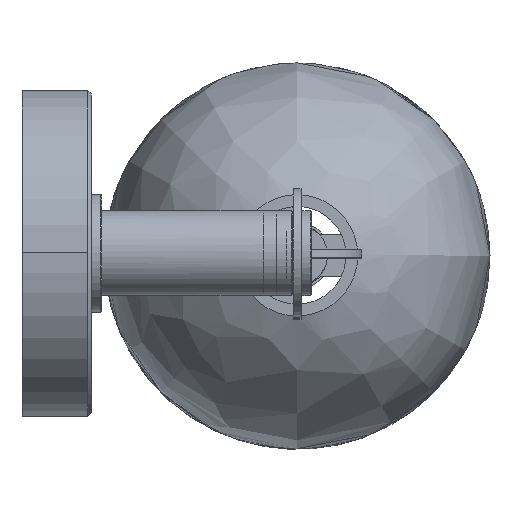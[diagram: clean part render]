
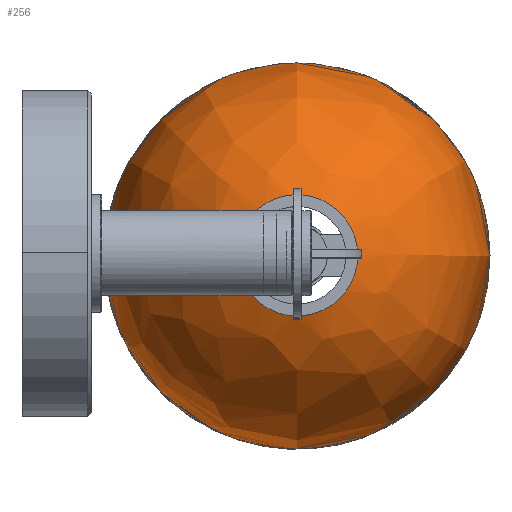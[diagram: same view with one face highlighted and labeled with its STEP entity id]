
A CAD part, top view. The second image highlights one B-rep face of the part: STEP entity #256.
In plain terms, the highlighted free-form (B-spline) face has degree [2, 2] with [9, 5] control points.
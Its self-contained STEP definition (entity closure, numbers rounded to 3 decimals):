
#256=ADVANCED_FACE('',(#629),#5614,.T.);
#629=FACE_OUTER_BOUND('',#1020,.T.);
#1020=EDGE_LOOP('',(#1980,#1981,#1982,#1983));
#1980=ORIENTED_EDGE('',*,*,#3401,.T.);
#1981=ORIENTED_EDGE('',*,*,#3396,.F.);
#1982=ORIENTED_EDGE('',*,*,#3401,.F.);
#1983=ORIENTED_EDGE('',*,*,#3400,.F.);
#3396=EDGE_CURVE('',#5061,#5061,#4353,.T.);
#3400=EDGE_CURVE('',#5064,#5064,#4357,.T.);
#3401=EDGE_CURVE('',#5064,#5061,#4358,.T.);
#4353=(
BOUNDED_CURVE()
B_SPLINE_CURVE(2,(#121506,#121507,#121508,#121509,#121510,#121511,#121512,
#121513,#121514),.UNSPECIFIED.,.T.,.F.)
B_SPLINE_CURVE_WITH_KNOTS((3,2,2,2,3),(0.,117.81,235.619,
353.429,471.239),.UNSPECIFIED.)
CURVE()
GEOMETRIC_REPRESENTATION_ITEM()
RATIONAL_B_SPLINE_CURVE((1.,0.671,0.902,0.637,
0.902,0.637,0.902,0.671,
1.))
REPRESENTATION_ITEM('')
);
#4357=(
BOUNDED_CURVE()
B_SPLINE_CURVE(2,(#121536,#121537,#121538,#121539,#121540,#121541,#121542,
#121543,#121544),.UNSPECIFIED.,.T.,.F.)
B_SPLINE_CURVE_WITH_KNOTS((3,2,2,2,3),(0.,117.024,234.048,
351.072,468.097),.UNSPECIFIED.)
CURVE()
GEOMETRIC_REPRESENTATION_ITEM()
RATIONAL_B_SPLINE_CURVE((1.,0.707,1.,0.707,1.,0.707,
1.,0.707,1.))
REPRESENTATION_ITEM('')
);
#4358=(
BOUNDED_CURVE()
B_SPLINE_CURVE(2,(#121545,#121546,#121547,#121548,#121549),
 .UNSPECIFIED.,.F.,.F.)
B_SPLINE_CURVE_WITH_KNOTS((3,2,3),(5.203,105.334,197.964),
 .UNSPECIFIED.)
CURVE()
GEOMETRIC_REPRESENTATION_ITEM()
RATIONAL_B_SPLINE_CURVE((1.,1.,1.,0.811,1.))
REPRESENTATION_ITEM('')
);
#5061=VERTEX_POINT('',#121490);
#5064=VERTEX_POINT('',#121493);
#5614=(
BOUNDED_SURFACE()
B_SPLINE_SURFACE(2,2,((#121407,#121408,#121409,#121410,#121411),(#121412,
#121413,#121414,#121415,#121416),(#121417,#121418,#121419,#121420,#121421),
(#121422,#121423,#121424,#121425,#121426),(#121427,#121428,#121429,#121430,
#121431),(#121432,#121433,#121434,#121435,#121436),(#121437,#121438,#121439,
#121440,#121441),(#121442,#121443,#121444,#121445,#121446),(#121447,#121448,
#121449,#121450,#121451)),.UNSPECIFIED.,.T.,.F.,.F.)
B_SPLINE_SURFACE_WITH_KNOTS((3,2,2,2,3),(3,2,3),(0.,117.81,235.619,
353.429,471.239),(5.,105.334,197.964),
 .UNSPECIFIED.)
GEOMETRIC_REPRESENTATION_ITEM()
RATIONAL_B_SPLINE_SURFACE(((1.,1.,1.,0.77,0.902),
(0.707,0.707,0.707,0.544,
0.637),(1.,1.,1.,0.77,0.902),(0.707,
0.707,0.707,0.544,0.637),
(1.,1.,1.,0.77,0.902),(0.707,0.707,
0.707,0.544,0.637),(1.,1.,1.,0.77,
0.902),(0.707,0.707,0.707,
0.544,0.637),(1.,1.,1.,0.77,0.902)))
REPRESENTATION_ITEM('')
SURFACE()
);
#121407=CARTESIAN_POINT('',(182.019,0.,-723.798));
#121408=CARTESIAN_POINT('',(182.019,0.,-600.165));
#121409=CARTESIAN_POINT('',(182.019,0.,-549.998));
#121410=CARTESIAN_POINT('',(182.019,0.,-495.823));
#121411=CARTESIAN_POINT('',(130.589,0.,-478.798));
#121412=CARTESIAN_POINT('',(182.019,75.,-723.798));
#121413=CARTESIAN_POINT('',(182.019,75.,-600.165));
#121414=CARTESIAN_POINT('',(182.019,75.,-549.998));
#121415=CARTESIAN_POINT('',(182.019,75.,-495.823));
#121416=CARTESIAN_POINT('',(130.589,23.57,-478.798));
#121417=CARTESIAN_POINT('',(107.019,75.,-723.798));
#121418=CARTESIAN_POINT('',(107.019,75.,-600.165));
#121419=CARTESIAN_POINT('',(107.019,75.,-549.998));
#121420=CARTESIAN_POINT('',(107.019,75.,-495.823));
#121421=CARTESIAN_POINT('',(107.019,23.57,-478.798));
#121422=CARTESIAN_POINT('',(32.019,75.,-723.798));
#121423=CARTESIAN_POINT('',(32.019,75.,-600.165));
#121424=CARTESIAN_POINT('',(32.019,75.,-549.998));
#121425=CARTESIAN_POINT('',(32.019,75.,-495.823));
#121426=CARTESIAN_POINT('',(83.448,23.57,-478.798));
#121427=CARTESIAN_POINT('',(32.019,0.,-723.798));
#121428=CARTESIAN_POINT('',(32.019,0.,-600.165));
#121429=CARTESIAN_POINT('',(32.019,0.,-549.998));
#121430=CARTESIAN_POINT('',(32.019,0.,-495.823));
#121431=CARTESIAN_POINT('',(83.448,0.,-478.798));
#121432=CARTESIAN_POINT('',(32.019,-75.,-723.798));
#121433=CARTESIAN_POINT('',(32.019,-75.,-600.165));
#121434=CARTESIAN_POINT('',(32.019,-75.,-549.998));
#121435=CARTESIAN_POINT('',(32.019,-75.,-495.823));
#121436=CARTESIAN_POINT('',(83.448,-23.57,-478.798));
#121437=CARTESIAN_POINT('',(107.019,-75.,-723.798));
#121438=CARTESIAN_POINT('',(107.019,-75.,-600.165));
#121439=CARTESIAN_POINT('',(107.019,-75.,-549.998));
#121440=CARTESIAN_POINT('',(107.019,-75.,-495.823));
#121441=CARTESIAN_POINT('',(107.019,-23.57,-478.798));
#121442=CARTESIAN_POINT('',(182.019,-75.,-723.798));
#121443=CARTESIAN_POINT('',(182.019,-75.,-600.165));
#121444=CARTESIAN_POINT('',(182.019,-75.,-549.998));
#121445=CARTESIAN_POINT('',(182.019,-75.,-495.823));
#121446=CARTESIAN_POINT('',(130.589,-23.57,-478.798));
#121447=CARTESIAN_POINT('',(182.019,0.,-723.798));
#121448=CARTESIAN_POINT('',(182.019,0.,-600.165));
#121449=CARTESIAN_POINT('',(182.019,0.,-549.998));
#121450=CARTESIAN_POINT('',(182.019,0.,-495.823));
#121451=CARTESIAN_POINT('',(130.589,0.,-478.798));
#121490=CARTESIAN_POINT('',(130.589,0.,-478.798));
#121493=CARTESIAN_POINT('',(182.019,0.,-723.298));
#121506=CARTESIAN_POINT('',(130.589,0.,-478.798));
#121507=CARTESIAN_POINT('',(130.589,23.57,-478.798));
#121508=CARTESIAN_POINT('',(107.019,23.57,-478.798));
#121509=CARTESIAN_POINT('',(83.448,23.57,-478.798));
#121510=CARTESIAN_POINT('',(83.448,0.,-478.798));
#121511=CARTESIAN_POINT('',(83.448,-23.57,-478.798));
#121512=CARTESIAN_POINT('',(107.019,-23.57,-478.798));
#121513=CARTESIAN_POINT('',(130.589,-23.57,-478.798));
#121514=CARTESIAN_POINT('',(130.589,0.,-478.798));
#121536=CARTESIAN_POINT('',(182.019,0.,-723.298));
#121537=CARTESIAN_POINT('',(182.019,-75.,-723.298));
#121538=CARTESIAN_POINT('',(107.019,-75.,-723.298));
#121539=CARTESIAN_POINT('',(32.019,-75.,-723.298));
#121540=CARTESIAN_POINT('',(32.019,0.,-723.298));
#121541=CARTESIAN_POINT('',(32.019,75.,-723.298));
#121542=CARTESIAN_POINT('',(107.019,75.,-723.298));
#121543=CARTESIAN_POINT('',(182.019,75.,-723.298));
#121544=CARTESIAN_POINT('',(182.019,0.,-723.298));
#121545=CARTESIAN_POINT('',(182.019,0.,-723.298));
#121546=CARTESIAN_POINT('',(182.019,0.,-600.063));
#121547=CARTESIAN_POINT('',(182.019,0.,-549.998));
#121548=CARTESIAN_POINT('',(182.019,0.,-495.823));
#121549=CARTESIAN_POINT('',(130.589,0.,-478.798));
